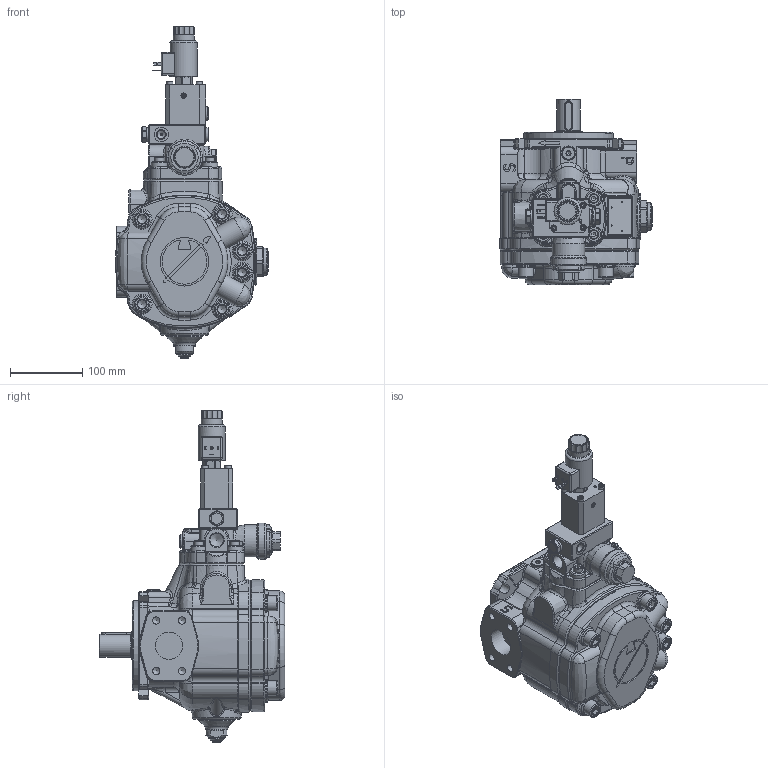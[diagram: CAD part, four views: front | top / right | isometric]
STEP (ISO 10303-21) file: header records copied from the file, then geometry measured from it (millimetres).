
FILE_DESCRIPTION(/* description */ (''),/* implementation_level */ '2;1');
FILE_NAME(/* name */ 'W:\Tecnico\Archivio\Berarma\Dimensioni Pompe\3D Export\Montaggio 3D semplificato\PLP-PHP 2\PHP 2 PCLS005.stp',/* time_stamp */ '2018-10-09T16:43:02+02:00',/* author */ ('marcop'),/* organization */ (''),/* preprocessor_version */ 'ST-DEVELOPER v17',/* originating_system */ 'Autodesk Inventor 2018',/* authorisation */ '');
FILE_SCHEMA (('AUTOMOTIVE_DESIGN { 1 0 10303 214 3 1 1 }'));
Products named in the file (1): PLP - PHP 2_Shrinkwrap_1
Bounding box: 212.17 x 257.5 x 460.65 mm (x, y, z)
Volume: 4827996.7 mm3; surface area: 444567.1 mm2
Topology: 2 solids, 2 shells, 2320 faces, 5966 edges, 3717 vertices
Faces by surface type: plane 858, cylinder 545, bspline 432, cone 232, torus 215, sphere 38
Full cylindrical faces by diameter (mm): 1.6 x3, 1.7 x4, 2.5 x3, 3 x1, 3.242 x1, 4 x3, 4.3 x1, 6.5 x3, 7.2 x1, 8 x2, 8.376 x4, 8.5 x4, 9.5 x1, 10 x1, 10.106 x4, 11.049 x1, 11.1 x1, 11.445 x4, 12 x3, 13 x4, 14 x1, 15.5 x2, 16.789 x1, 17.805 x1, 17.84 x1, 18.631 x1, 18.999 x2, 19 x8, 19.2 x1, 20 x7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
Entity records: 88239 total; most frequent: CARTESIAN_POINT 32194, ORIENTED_EDGE 11790, DIRECTION 10579, EDGE_CURVE 5895, AXIS2_PLACEMENT_3D 4099, VERTEX_POINT 3717, EDGE_LOOP 2470, LINE 2381
